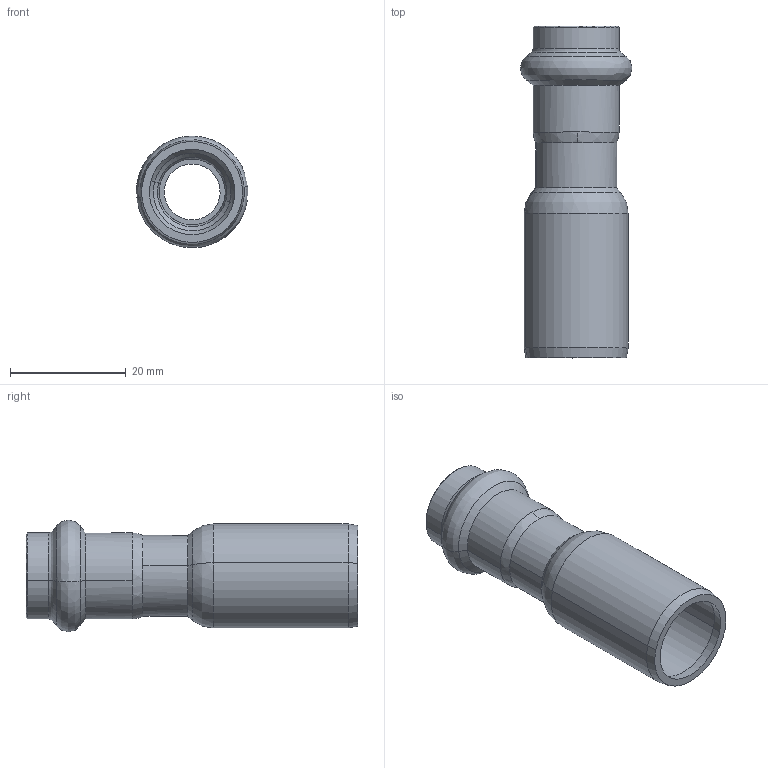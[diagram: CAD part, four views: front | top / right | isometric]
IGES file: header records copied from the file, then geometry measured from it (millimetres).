
Start section: Elysium IGES Interface
Global section: file name: C:\3d modellen sudo\C-Pr VP\SP8243V\8243VW1812.igs; native system: CoCreate Modeling 17.00A  17-Jun-2010; preprocessor: CoCreate IGES_3D V2.2; author: Unknown; organization: Unknown; date: 20130305.091956; units: millimetre
Bounding box: 19.23 x 57.29 x 19.28 mm (x, y, z)
Volume: 4054.3 mm3; surface area: 5770.4 mm2
Topology: 1 solids, 1 shells, 56 faces, 122 edges, 70 vertices
Faces by surface type: bspline 56
